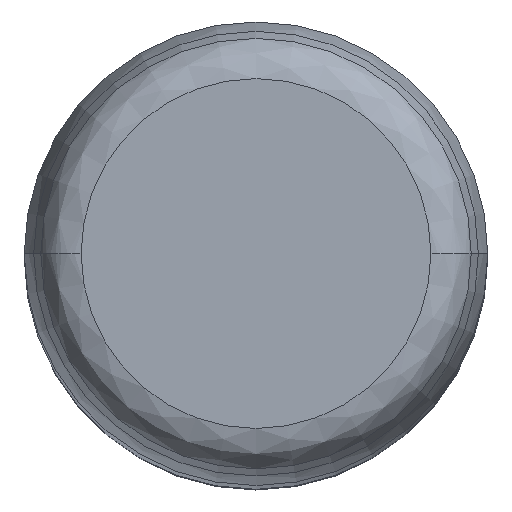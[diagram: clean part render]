
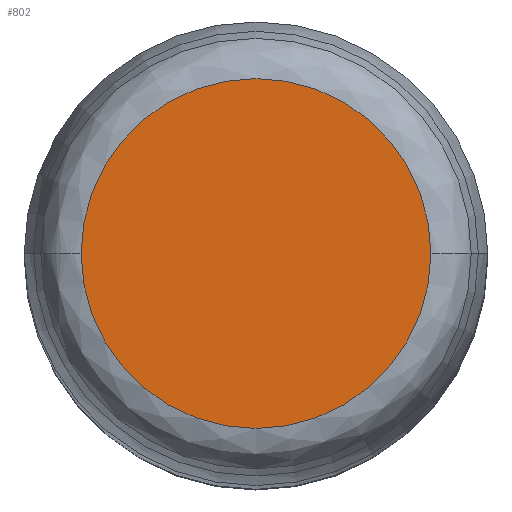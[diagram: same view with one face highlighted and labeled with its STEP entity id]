
A CAD part, top view. The second image highlights one B-rep face of the part: STEP entity #802.
In plain terms, the highlighted planar face has unit normal (0, 0, 1).
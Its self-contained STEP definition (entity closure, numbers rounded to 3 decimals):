
#149=VERTEX_POINT(' ',#150);
#150=CARTESIAN_POINT('',(-18.868,0.,300.));
#151=VERTEX_POINT(' ',#152);
#152=CARTESIAN_POINT('',(18.868,0.,300.));
#445=CIRCLE('',#446,18.868);
#446=AXIS2_PLACEMENT_3D('',#447,#448,#449);
#447=CARTESIAN_POINT('',(0.,0.,300.));
#448=DIRECTION('',(0.,0.,1.));
#449=DIRECTION('',(0.,1.,0.));
#450=EDGE_CURVE(' ',#151,#149,#445,.F.);
#451=CIRCLE('',#452,18.868);
#452=AXIS2_PLACEMENT_3D('',#453,#454,#455);
#453=CARTESIAN_POINT('',(0.,0.,300.));
#454=DIRECTION('',(0.,0.,1.));
#455=DIRECTION('',(0.,-1.,0.));
#456=EDGE_CURVE(' ',#149,#151,#451,.F.);
#793=ORIENTED_EDGE('',*,*,#450,.F.);
#794=ORIENTED_EDGE('',*,*,#456,.F.);
#795=EDGE_LOOP('',(#793,#794));
#796=FACE_OUTER_BOUND('',#795,.T.);
#797=PLANE('',#798);
#798=AXIS2_PLACEMENT_3D('',#799,#800,#801);
#799=CARTESIAN_POINT('',(0.,0.,300.));
#800=DIRECTION('',(0.,0.,1.));
#801=DIRECTION('',(0.,-1.,0.));
#802=ADVANCED_FACE('',(#796),#797,.T.);
